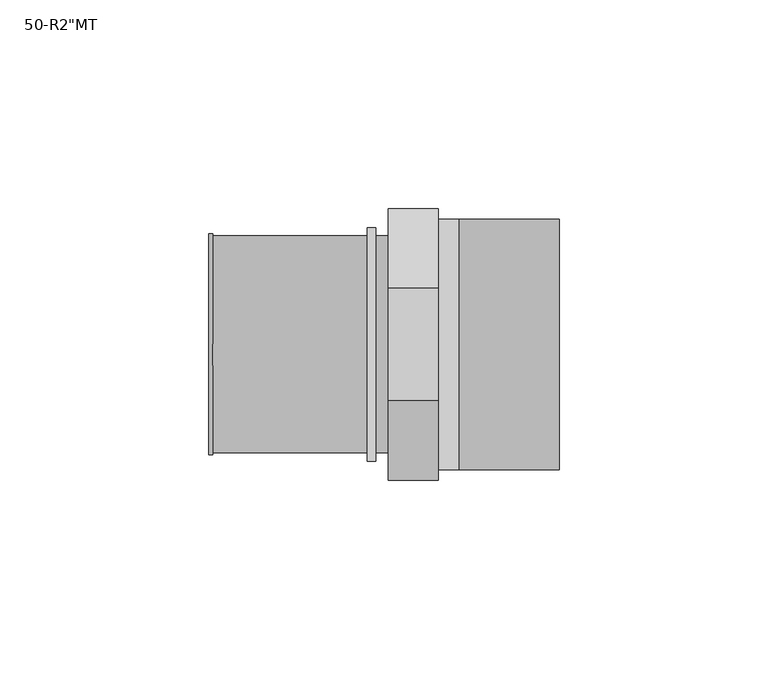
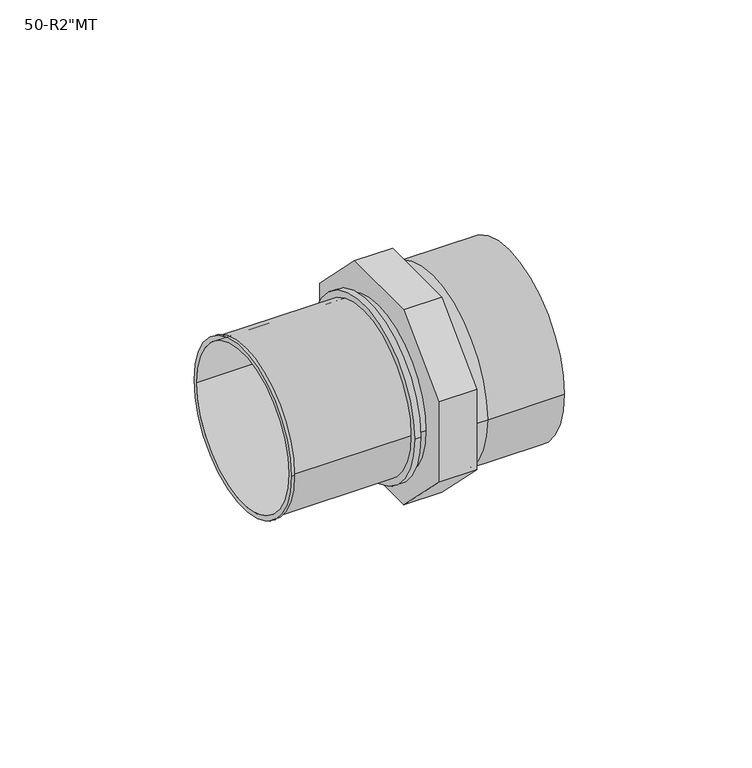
"""IFC4 building model written with IfcOpenShell, lengths in millimetres: pipe fitting geometry."""

from ifc_helpers import new_model, si_unit, point, frame, origin, origin_2d, place, context, project, spatial, polyline, circle_curve, trimmed, segment, composite_curve, outline, extrude, source, transform, mapped, element, save
from ifc_brep_helpers import plane_surface, cylinder_surface, revolved_surface, advanced_brep


def pipe_fitting_55ec275f(model_context):
    return source(origin(), model_context, "Body", "SolidModel", [
        advanced_brep(
        [(-6.0, -32.5, 13.4619408), (-6.0, -13.4619408, 32.5), (-6.0, 13.4619408, 32.5), (-6.0, 32.5, 13.4619408), (-6.0, 32.5, -13.4619408), (-6.0, 13.4619408, -32.5), (-6.0, -13.4619408, -32.5), (-6.0, -32.5, -13.4619408), (6.0, -32.5, 13.4619408), (6.0, -32.5, -13.4619408), (6.0, -13.4619408, -32.5), (6.0, 13.4619408, -32.5), (6.0, 32.5, -13.4619408), (6.0, 32.5, 13.4619408), (6.0, 13.4619408, 32.5), (6.0, -13.4619408, 32.5), (6.0, -30.0, 0.0), (6.0, 30.0, 0.0), (35.0, -30.0, 0.0), (35.0, 30.0, 0.0), (35.0, -25.0, 0.0), (35.0, 25.0, 0.0), (12.0, 25.0, 0.0), (12.0, -25.0, 0.0), (12.0, 30.0, 0.0), (11.0, 30.0, 0.0), (11.0, -30.0, 0.0), (12.0, -30.0, 0.0)],
        [
            (0, 1),
            (1, 2),
            (2, 3),
            (3, 4),
            (4, 5),
            (5, 6),
            (6, 7),
            (7, 0),
            (8, 9),
            (9, 10),
            (10, 11),
            (11, 12),
            (12, 13),
            (13, 14),
            (14, 15),
            (15, 8),
            (16, 17, circle_curve(frame((6.0, 0.0, 0.0), z_axis=(-1.0, 0.0, 0.0), x_axis=(0.0, -1.0, 0.0)), 30.0)),
            (17, 16, circle_curve(frame((6.0, 0.0, 0.0), z_axis=(-1.0, 0.0, 0.0), x_axis=(0.0, -1.0, 0.0)), 30.0)),
            (0, 8),
            (15, 1),
            (14, 2),
            (13, 3),
            (12, 4),
            (11, 5),
            (10, 6),
            (9, 7),
            (18, 19, circle_curve(frame((35.0, 0.0, 0.0), z_axis=(1.0, 0.0, 0.0), x_axis=(0.0, 1.0, 0.0)), 30.0)),
            (19, 18, circle_curve(frame((35.0, 0.0, 0.0), z_axis=(1.0, 0.0, 0.0), x_axis=(0.0, 1.0, 0.0)), 30.0)),
            (20, 21, circle_curve(frame((35.0, 0.0, 0.0), z_axis=(-1.0, 0.0, 0.0), x_axis=(0.0, 1.0, 0.0)), 25.0)),
            (21, 20, circle_curve(frame((35.0, 0.0, 0.0), z_axis=(-1.0, 0.0, 0.0), x_axis=(0.0, 1.0, 0.0)), 25.0)),
            (21, 22),
            (22, 23, circle_curve(frame((12.0, 0.0, 0.0), z_axis=(-1.0, 0.0, 0.0), x_axis=(0.0, 1.0, 0.0)), 25.0)),
            (23, 20),
            (23, 22, circle_curve(frame((12.0, 0.0, 0.0), z_axis=(-1.0, 0.0, 0.0), x_axis=(0.0, 1.0, 0.0)), 25.0)),
            (19, 24),
            (24, 25),
            (25, 26, circle_curve(frame((11.0, 0.0, 0.0), z_axis=(1.0, 0.0, 0.0), x_axis=(0.0, 1.0, 0.0)), 30.0)),
            (26, 27),
            (27, 18),
            (26, 25, circle_curve(frame((11.0, 0.0, 0.0), z_axis=(1.0, 0.0, 0.0), x_axis=(0.0, 1.0, 0.0)), 30.0)),
            (16, 26),
            (25, 17),
        ],
        [
            plane_surface(frame((-6.0, 0.0, 0.0), z_axis=(-1.0, 0.0, 0.0), x_axis=(0.0, 0.0, 1.0))),
            plane_surface(frame((6.0, 0.0, 0.0), z_axis=(1.0, 0.0, 0.0), x_axis=(0.0, 0.0, 1.0))),
            plane_surface(frame((-6.0, -32.5, 13.4619408), z_axis=(0.0, -0.7071067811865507, 0.7071067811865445), x_axis=(1.0, 0.0, 0.0))),
            plane_surface(frame((-6.0, -13.4619408, 32.5), z_axis=(0.0, 0.0, 1.0), x_axis=(1.0, 0.0, 0.0))),
            plane_surface(frame((-6.0, 13.4619408, 32.5), z_axis=(0.0, 0.7071067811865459, 0.7071067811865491), x_axis=(1.0, 0.0, 0.0))),
            plane_surface(frame((-6.0, 32.5, 13.4619408), z_axis=(0.0, 1.0, 0.0), x_axis=(1.0, 0.0, 0.0))),
            plane_surface(frame((-6.0, 32.5, -13.4619408), z_axis=(0.0, 0.7071067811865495, -0.7071067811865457), x_axis=(1.0, 0.0, 0.0))),
            plane_surface(frame((-6.0, 13.4619408, -32.5), z_axis=(0.0, 0.0, -1.0), x_axis=(1.0, 0.0, 0.0))),
            plane_surface(frame((-6.0, -13.4619408, -32.5), z_axis=(0.0, -0.7071067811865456, -0.7071067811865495), x_axis=(1.0, 0.0, 0.0))),
            plane_surface(frame((-6.0, -32.5, -13.4619408), z_axis=(0.0, -1.0, 0.0), x_axis=(1.0, 0.0, 0.0))),
            plane_surface(frame((35.0, 0.0, 0.0), z_axis=(1.0, 0.0, 0.0), x_axis=(0.0, 0.0, 1.0))),
            revolved_surface(polyline([(35.0, 25.0, 0.0), (12.0, 25.0, 0.0)]), (11.0, 0.0, 0.0), (1.0, 0.0, 0.0)),
            cylinder_surface(frame((11.0, 0.0, 0.0), z_axis=(-1.0, 0.0, 0.0), x_axis=(0.0, 1.0, 0.0)), 30.0),
            plane_surface(frame((12.0, 0.0, 0.0), z_axis=(1.0, 0.0, 0.0), x_axis=(0.0, 0.0, 1.0))),
            cylinder_surface(frame((12.0, 0.0, 0.0), z_axis=(1.0, 0.0, 0.0), x_axis=(0.0, -1.0, 0.0)), 30.0),
        ],
        [
            (0, [[1, 2, 3, 4, 5, 6, 7, 8]]),
            (1, [[9, 10, 11, 12, 13, 14, 15, 16], [17, 18]]),
            (2, [[-1, 19, -16, 20]]),
            (3, [[-2, -20, -15, 21]]),
            (4, [[-3, -21, -14, 22]]),
            (5, [[-4, -22, -13, 23]]),
            (6, [[-5, -23, -12, 24]]),
            (7, [[-6, -24, -11, 25]]),
            (8, [[-7, -25, -10, 26]]),
            (9, [[-8, -26, -9, -19]]),
            (10, [[27, 28], [29, 30]]),
            (11, [[-30, 31, 32, 33]]),
            (11, [[-29, -33, 34, -31]]),
            (12, [[-28, 35, 36, 37, 38, 39]]),
            (12, [[-27, -39, -38, 40, -36, -35]]),
            (13, [[-32, -34]]),
            (14, [[41, -37, 42, -17]]),
            (14, [[-41, -18, -42, -40]]),
        ],
    ),
        advanced_brep(
        [(-49.0, -26.5, 0.0), (-49.0, 26.5, 0.0), (-49.0, -25.0, 0.0), (-49.0, 25.0, 0.0), (-11.0, -26.0, 0.0), (-11.0, 26.0, 0.0), (-11.0, -25.0, 0.0), (-11.0, 25.0, 0.0), (-48.0, 26.0, 0.0), (-48.0, -26.0, 0.0), (-48.0, -26.5, 0.0), (-48.0, 26.5, 0.0)],
        [
            (0, 1, circle_curve(frame((-49.0, 0.0, 0.0), z_axis=(-1.0, 0.0, 0.0), x_axis=(0.0, 1.0, 0.0)), 26.5)),
            (1, 0, circle_curve(frame((-49.0, 0.0, 0.0), z_axis=(-1.0, 0.0, 0.0), x_axis=(0.0, 1.0, 0.0)), 26.5)),
            (2, 3, circle_curve(frame((-49.0, 0.0, 0.0), z_axis=(1.0, 0.0, 0.0), x_axis=(0.0, 1.0, 0.0)), 25.0)),
            (3, 2, circle_curve(frame((-49.0, 0.0, 0.0), z_axis=(1.0, 0.0, 0.0), x_axis=(0.0, 1.0, 0.0)), 25.0)),
            (4, 5, circle_curve(frame((-11.0, 0.0, 0.0), z_axis=(1.0, 0.0, 0.0), x_axis=(0.0, 1.0, 0.0)), 26.0)),
            (5, 4, circle_curve(frame((-11.0, 0.0, 0.0), z_axis=(1.0, 0.0, 0.0), x_axis=(0.0, 1.0, 0.0)), 26.0)),
            (6, 7, circle_curve(frame((-11.0, 0.0, 0.0), z_axis=(-1.0, 0.0, 0.0), x_axis=(0.0, 1.0, 0.0)), 25.0)),
            (7, 6, circle_curve(frame((-11.0, 0.0, 0.0), z_axis=(-1.0, 0.0, 0.0), x_axis=(0.0, 1.0, 0.0)), 25.0)),
            (2, 6),
            (7, 3),
            (5, 8),
            (8, 9, circle_curve(frame((-48.0, 0.0, 0.0), z_axis=(1.0, 0.0, 0.0), x_axis=(0.0, 1.0, 0.0)), 26.0)),
            (9, 4),
            (9, 8, circle_curve(frame((-48.0, 0.0, 0.0), z_axis=(1.0, 0.0, 0.0), x_axis=(0.0, 1.0, 0.0)), 26.0)),
            (10, 11, circle_curve(frame((-48.0, 0.0, 0.0), z_axis=(1.0, 0.0, 0.0), x_axis=(0.0, 1.0, 0.0)), 26.5)),
            (11, 10, circle_curve(frame((-48.0, 0.0, 0.0), z_axis=(1.0, 0.0, 0.0), x_axis=(0.0, 1.0, 0.0)), 26.5)),
            (0, 10),
            (11, 1),
        ],
        [
            plane_surface(frame((-49.0, 0.0, 0.0), z_axis=(-1.0, 0.0, 0.0), x_axis=(0.0, 0.0, 1.0))),
            plane_surface(frame((-11.0, 0.0, 0.0), z_axis=(1.0, 0.0, 0.0), x_axis=(0.0, 0.0, 1.0))),
            revolved_surface(polyline([(-11.0, 25.0, 0.0), (-49.0, 25.0, 0.0)]), (-49.0, 0.0, 0.0), (1.0, 0.0, 0.0)),
            cylinder_surface(frame((-49.0, 0.0, 0.0), z_axis=(-1.0, 0.0, 0.0), x_axis=(0.0, 1.0, 0.0)), 26.0),
            plane_surface(frame((-48.0, 0.0, 0.0), z_axis=(1.0, 0.0, 0.0), x_axis=(0.0, 0.0, 1.0))),
            cylinder_surface(frame((-49.0, 0.0, 0.0), z_axis=(-1.0, 0.0, 0.0), x_axis=(0.0, 1.0, 0.0)), 26.5),
        ],
        [
            (0, [[1, 2], [3, 4]]),
            (1, [[5, 6], [7, 8]]),
            (2, [[-3, 9, -8, 10]]),
            (2, [[-4, -10, -7, -9]]),
            (3, [[-6, 11, 12, 13]]),
            (3, [[-5, -13, 14, -11]]),
            (4, [[15, 16], [-12, -14]]),
            (5, [[-1, 17, -16, 18]]),
            (5, [[-2, -18, -15, -17]]),
        ],
    ),
        extrude(outline(composite_curve([segment(trimmed(circle_curve(origin_2d(), 28.0), [point((-28.0, 0.0))], [point((28.0, 0.0))], False, "CARTESIAN"), True, "CONTINUOUS"), segment(trimmed(circle_curve(origin_2d(), 28.0), [point((28.0, 0.0))], [point((-28.0, 0.0))], False, "CARTESIAN"), True, "CONTINUOUS")], self_intersect=False), holes=[composite_curve([segment(trimmed(circle_curve(origin_2d(), 25.0), [point((-25.0, 0.0))], [point((25.0, 0.0))], True, "CARTESIAN"), True, "CONTINUOUS"), segment(trimmed(circle_curve(origin_2d(), 25.0), [point((25.0, 0.0))], [point((-25.0, 0.0))], True, "CARTESIAN"), True, "CONTINUOUS")], self_intersect=False)]), frame((-11.0, 0.0, 0.0), z_axis=(1.0, 0.0, 0.0), x_axis=(0.0, 1.0, 0.0)), (0.0, 0.0, 1.0), 2.0),
        extrude(outline(composite_curve([segment(trimmed(circle_curve(origin_2d(), 26.0), [point((-26.0, 0.0))], [point((26.0, 0.0))], False, "CARTESIAN"), True, "CONTINUOUS"), segment(trimmed(circle_curve(origin_2d(), 26.0), [point((26.0, 0.0))], [point((-26.0, 0.0))], False, "CARTESIAN"), True, "CONTINUOUS")], self_intersect=False)), frame((-9.0, 0.0, 0.0), z_axis=(1.0, 0.0, 0.0), x_axis=(0.0, 1.0, 0.0)), (0.0, 0.0, 1.0), 3.0),
    ])


if __name__ == "__main__":
    model = new_model("IFC4")
    model_context = context("Model", 3, world=origin())
    ifc_project = project(units=[si_unit("LENGTHUNIT", "METRE", prefix="MILLI")], contexts=[model_context])
    site = spatial("IfcSite", under=ifc_project)
    building = spatial("IfcBuilding", under=site)
    placement = place(None, origin())
    pipe_fitting_shape = pipe_fitting_55ec275f(model_context)
    element("IfcPipeFitting", 1, ObjectType="SuperPipe_AdapterMT : 50-R2\"MT", at=placement, inside=building, context=model_context, shape_type="MappedRepresentation", body=[
        mapped(pipe_fitting_shape, transform((0.0, 0.0, 0.0), x_axis=(1.0, 0.0, 0.0), y_axis=(0.0, 1.0, 0.0), z_axis=(0.0, 0.0, 1.0))),
    ])
    save(model, "model.ifc")
